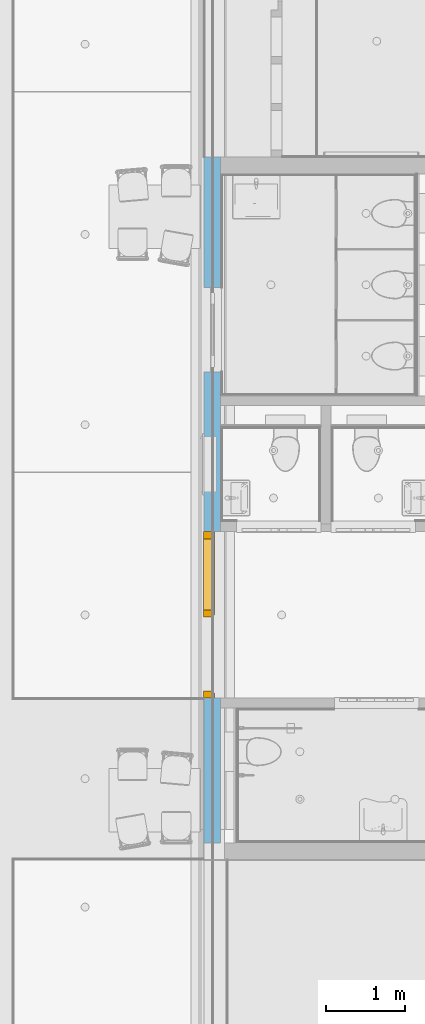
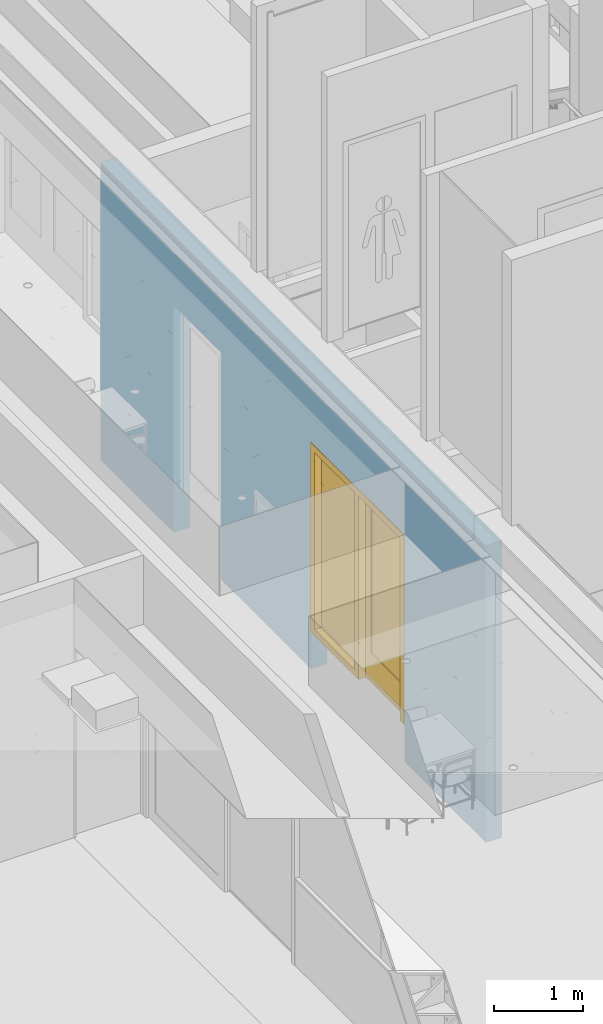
# One storey, part 73 of 347: 1 door, 2 openings, plus 1 element that does not belong to this part.
"""IFC2X3 building model written with IfcOpenShell, lengths in millimetres."""

from ifc_helpers import new_model, entity, si_unit, converted_unit, derived_unit, money_unit, direction, frame, origin_with_axes, place, context, subcontext, project, spatial, open_shell, faceted_brep, surface_model, material, type_object, element, fill, save


model = new_model("IFC2X3")

# Units and contexts
model_context = context("Model", 3, precision=0.01, world=origin_with_axes(), true_north=direction((0.0, 1.0)))
plan_context = context("Plan", 3, precision=0.01, world=origin_with_axes(), true_north=direction((0.0, 1.0)))
body_context = subcontext(model_context, "Body", "Model", "MODEL_VIEW")
ifc_project = project(units=[si_unit("LENGTHUNIT", "METRE", prefix="MILLI"), si_unit("AREAUNIT", "SQUARE_METRE"), si_unit("VOLUMEUNIT", "CUBIC_METRE"), converted_unit("PLANEANGLEUNIT", "DEGREE", entity("IfcPlaneAngleMeasure", 0.0174532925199), si_unit("PLANEANGLEUNIT", "RADIAN"), dimensions=[0, 0, 0, 0, 0, 0, 0]), money_unit("EUR"), converted_unit("TIMEUNIT", "Year", entity("IfcTimeMeasure", 31556926.0), si_unit("TIMEUNIT", "SECOND"), dimensions=[0, 0, 1, 0, 0, 0, 0]), si_unit("MASSUNIT", "GRAM", prefix="KILO"), si_unit("THERMODYNAMICTEMPERATUREUNIT", "DEGREE_CELSIUS"), si_unit("LUMINOUSINTENSITYUNIT", "LUMEN"), si_unit("ENERGYUNIT", "JOULE", prefix="MEGA"), derived_unit("THERMALCONDUCTANCEUNIT", [(si_unit("POWERUNIT", "WATT"), 1), (si_unit("LENGTHUNIT", "METRE"), -1), (si_unit("THERMODYNAMICTEMPERATUREUNIT", "KELVIN"), -1)]), derived_unit("SPECIFICHEATCAPACITYUNIT", [(si_unit("ENERGYUNIT", "JOULE"), 1), (si_unit("MASSUNIT", "GRAM", prefix="KILO"), -1), (si_unit("THERMODYNAMICTEMPERATUREUNIT", "KELVIN"), -1)]), derived_unit("MASSDENSITYUNIT", [(si_unit("MASSUNIT", "GRAM", prefix="KILO"), 1), (si_unit("VOLUMEUNIT", "CUBIC_METRE"), -1)])], contexts=[model_context, plan_context])

# Site, building, storey
site_placement = place(None, origin_with_axes())
site = spatial("IfcSite", under=ifc_project, at=site_placement, Name="Site", CompositionType="ELEMENT")
building_placement = place(site_placement, origin_with_axes())
building = spatial("IfcBuilding", under=site, at=building_placement, Name="Naam gebouw", CompositionType="ELEMENT")
storey_placement = place(building_placement, origin_with_axes())
storey = spatial("IfcBuildingStorey", under=building, at=storey_placement, Name="begane grond", CompositionType="ELEMENT", Elevation=0.0)

# Wall, openings, door
ifc_material = material(Name="Beton gewapend prefab wand")
wall_type = type_object("IfcWallType", Name="Betonwand 200 210", PredefinedType="NOTDEFINED")
wall_placement = place(storey_placement, frame((35705.0, 25940.0, -510.0), z_axis=(0.0, 0.0, 1.0), x_axis=(0.0, 1.0, 0.0)))
wall = element("IfcWall", 1, at=wall_placement, inside=storey, type_object=wall_type, material=ifc_material, Name="21_21 betonwand", context=body_context, shape_type="Brep", body=[
    faceted_brep([(2035.0, 0.0, 440.0), (2035.0, 0.0, 3110.0), (4134.99992765, 0.0, 3110.0), (4134.99992765, 0.0, 440.0), (4134.99992765, 0.0, 0.0), (6149.99992765, 0.0, 0.0), (6149.99992765, 0.0, 440.0), (6149.99992765, 0.0, 3110.0), (7213.99992765, 0.0, 3110.0), (7213.99992765, 0.0, 440.0), (7213.99992765, 0.0, 0.0), (8860.0, 0.0, 0.0), (8860.0, 0.0, 4070.0), (210.0, 0.0, 4070.0), (210.0, 0.0, 0.0), (2035.0, 0.0, 0.0), (2035.0, 210.0, 440.0), (2035.0, 210.0, 3110.0), (4134.99992765, 210.0, 3110.0), (4134.99992765, 210.0, 440.0), (4134.99992765, 210.0, 0.0), (6149.99992765, 210.0, 0.0), (6149.99992765, 210.0, 440.0), (6149.99992765, 130.0, 440.0), (6149.99992765, 210.0, 3110.0), (7213.99992765, 210.0, 3110.0), (7213.99992765, 210.0, 440.0), (7213.99992765, 130.0, 440.0), (7213.99992765, 210.0, 0.0), (8860.0, 210.0, 0.0), (8860.0, 210.0, 4070.0), (210.0, 210.0, 4070.0), (210.0, 210.0, 0.0), (2035.0, 210.0, 0.0)], [[[0, 1, 2, 3, 4, 5, 6, 7, 8, 9, 10, 11, 12, 13, 14, 15]], [[1, 0, 16, 17]], [[2, 1, 17, 18]], [[3, 2, 18, 19]], [[3, 19, 20, 4]], [[4, 20, 21, 5]], [[5, 21, 22, 23, 6]], [[23, 22, 24, 7, 6]], [[7, 24, 25, 8]], [[8, 25, 26, 27, 9]], [[26, 28, 10, 9, 27]], [[29, 11, 10, 28]], [[29, 30, 12, 11]], [[13, 12, 30, 31]], [[32, 14, 13, 31]], [[14, 32, 33, 15]], [[16, 0, 15, 33]], [[17, 16, 33, 32, 31, 30, 29, 28, 26, 25, 24, 22, 21, 20, 19, 18]]]),
])
opening_1_placement = place(wall_placement, frame((6681.99992765, 0.0, 510.0), z_axis=(0.0, 0.0, 1.0), x_axis=(1.0, 0.0, 0.0)))
element("IfcOpeningElement", 2, at=opening_1_placement, cuts=wall, Name="32_01.04", context=body_context, shape_type="Brep", body=[
    faceted_brep([(-532.0, 130.0, 2600.0), (-532.0, 130.0, -450.0), (-532.0, -210.0, -450.0), (-532.0, -210.0, 2600.0), (532.0, 130.0, 2600.0), (532.0, 130.0, -450.0), (532.0, -210.0, -450.0), (532.0, -210.0, 2600.0)], [[[0, 1, 2, 3]], [[0, 4, 5, 1]], [[1, 5, 6, 2]], [[3, 2, 6, 7]], [[4, 0, 3, 7]], [[5, 4, 7, 6]]]),
    faceted_brep([(-532.0, 130.0, -450.0), (-532.0, 130.0, 2600.0), (-532.0, 420.0, 2600.0), (-532.0, 420.0, -450.0), (532.0, 130.0, -450.0), (532.0, 130.0, 2600.0), (532.0, 420.0, 2600.0), (532.0, 420.0, -450.0)], [[[0, 1, 2, 3]], [[0, 4, 5, 1]], [[1, 5, 6, 2]], [[3, 2, 6, 7]], [[4, 0, 3, 7]], [[5, 4, 7, 6]]]),
])
opening_2_placement = place(wall_placement, frame((3084.99996383, 0.0, 510.0), z_axis=(0.0, 0.0, 1.0), x_axis=(1.0, 0.0, 0.0)))
opening_2 = element("IfcOpeningElement", 3, at=opening_2_placement, cuts=wall, Name="32_04.05", context=body_context, shape_type="Brep", body=[
    faceted_brep([(-1049.99996383, -210.0, -450.0), (-1049.99996383, -210.0, 2600.0), (-1049.99996383, 427.0, 2600.0), (-1049.99996383, 427.0, -450.0), (1049.99996383, -210.0, -450.0), (1049.99996383, -210.0, 2600.0), (1049.99996383, 427.0, 2600.0), (1049.99996383, 427.0, -450.0)], [[[0, 1, 2, 3]], [[0, 4, 5, 1]], [[1, 5, 6, 2]], [[3, 2, 6, 7]], [[4, 0, 3, 7]], [[5, 4, 7, 6]]]),
])
door_style = type_object("IfcDoorStyle", Name="D1 zl1-b 25", ConstructionType="NOTDEFINED", OperationType="SINGLE_SWING_RIGHT", ParameterTakesPrecedence=False, Sizeable=False)
door_placement = place(opening_2_placement, frame((1049.99996383, 0.0, 0.0), z_axis=(0.0, 0.0, 1.0), x_axis=(-1.0, 0.0, 0.0)))
door = element("IfcDoor", 4, at=door_placement, inside=storey, type_object=door_style, Name="32_04.05", ObjectType="DOOR", OverallHeight=2600.0, OverallWidth=2100.0, context=body_context, shape_type="SurfaceModel", body=[
    faceted_brep([(0.0, -78.0, 0.0), (90.0, -78.0, 0.0), (90.0, -217.0, 0.0), (0.0, -217.0, 0.0), (0.0, -78.0, 2510.0), (90.0, -78.0, 2510.0), (90.0, -78.0, 90.0), (90.0, -217.0, 90.0), (90.0, -217.0, 2510.0), (0.0, -217.0, 2510.0)], [[[0, 1, 2, 3]], [[0, 4, 5, 6, 1]], [[1, 6, 7, 2]], [[3, 2, 7, 8, 9]], [[4, 0, 3, 9]], [[5, 4, 9, 8]], [[6, 5, 8, 7]]]),
    faceted_brep([(1075.99992765, -123.0, 0.0), (1075.99992765, -123.0, 2510.0), (1075.99992765, -217.0, 2510.0), (1075.99992765, -217.0, 0.0), (1050.99992765, -123.0, 2510.0), (1050.99992765, -123.0, 0.0), (1050.99992765, -78.0, 2510.0), (985.999927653, -78.0, 2510.0), (985.999927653, -217.0, 2510.0), (985.999927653, -217.0, 0.0), (985.999927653, -217.0, 90.0), (985.999927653, -78.0, 0.0), (1050.99992765, -78.0, 0.0), (985.999927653, -78.0, 90.0)], [[[0, 1, 2, 3]], [[4, 1, 0, 5]], [[4, 6, 7, 8, 2, 1]], [[9, 3, 2, 8, 10]], [[5, 0, 3, 9, 11, 12]], [[6, 4, 5, 12]], [[6, 12, 11, 13, 7]], [[13, 10, 8, 7]], [[11, 9, 10, 13]]]),
    faceted_brep([(90.0, -78.0, 90.0), (90.0, -78.0, 0.0), (90.0, -217.0, 0.0), (90.0, -217.0, 90.0), (985.999927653, -78.0, 90.0), (985.999927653, -78.0, 0.0), (985.999927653, -217.0, 0.0), (985.999927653, -217.0, 90.0)], [[[0, 1, 2, 3]], [[0, 4, 5, 1]], [[1, 5, 6, 2]], [[3, 2, 6, 7]], [[4, 0, 3, 7]], [[5, 4, 7, 6]]]),
    faceted_brep([(2034.99992765, -123.0, 2510.0), (2009.99992765, -123.0, 2510.0), (2009.99992765, -217.0, 2510.0), (2099.99992765, -217.0, 2510.0), (2099.99992765, -78.0, 2510.0), (2034.99992765, -78.0, 2510.0), (2034.99992765, -123.0, 0.0), (2009.99992765, -123.0, 0.0), (2009.99992765, -217.0, 0.0), (2099.99992765, -217.0, 0.0), (2099.99992765, -78.0, 0.0), (2034.99992765, -78.0, 0.0)], [[[0, 1, 2, 3, 4, 5]], [[1, 0, 6, 7]], [[1, 7, 8, 2]], [[3, 2, 8, 9]], [[4, 3, 9, 10]], [[11, 5, 4, 10]], [[0, 5, 11, 6]], [[6, 11, 10, 9, 8, 7]]]),
    faceted_brep([(1050.99992765, -78.0, 2535.0), (1050.99992765, -78.0, 2510.0), (985.999927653, -78.0, 2510.0), (90.0, -78.0, 2510.0), (0.0, -78.0, 2510.0), (0.0, -78.0, 2600.0), (2099.99992765, -78.0, 2600.0), (2099.99992765, -78.0, 2510.0), (2034.99992765, -78.0, 2510.0), (2034.99992765, -78.0, 2535.0), (1050.99992765, -123.0, 2535.0), (1050.99992765, -123.0, 2510.0), (2009.99992765, -123.0, 2510.0), (2009.99992765, -217.0, 2510.0), (1075.99992765, -217.0, 2510.0), (985.999927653, -217.0, 2510.0), (90.0, -217.0, 2510.0), (0.0, -217.0, 2510.0), (0.0, -217.0, 2600.0), (2099.99992765, -217.0, 2600.0), (2099.99992765, -217.0, 2510.0), (2034.99992765, -123.0, 2510.0), (2034.99992765, -123.0, 2535.0)], [[[0, 1, 2, 3, 4, 5, 6, 7, 8, 9]], [[1, 0, 10, 11]], [[11, 12, 13, 14, 15, 2, 1]], [[2, 15, 16, 3]], [[3, 16, 17, 4]], [[4, 17, 18, 5]], [[5, 18, 19, 6]], [[6, 19, 20, 7]], [[21, 8, 7, 20, 13, 12]], [[9, 8, 21, 22]], [[0, 9, 22, 10]], [[21, 12, 11, 10, 22]], [[13, 20, 19, 18, 17, 16, 15, 14]]]),
    faceted_brep([(2034.99992765, -83.0, 400.0), (2034.99992765, -123.0, 400.0), (1894.99992765, -123.0, 400.0), (1894.99992765, -83.0, 400.0), (2034.99992765, -83.0, 2395.0), (2034.99992765, -123.0, 2395.0), (1894.99992765, -123.0, 2395.0), (1894.99992765, -83.0, 2395.0)], [[[0, 1, 2, 3]], [[4, 5, 1, 0]], [[1, 5, 6, 2]], [[3, 2, 6, 7]], [[0, 3, 7, 4]], [[7, 6, 5, 4]]]),
    faceted_brep([(1050.99992765, -83.0, 400.0), (1050.99992765, -123.0, 400.0), (1050.99992765, -123.0, 2395.0), (1050.99992765, -83.0, 2395.0), (1190.99992765, -83.0, 400.0), (1190.99992765, -123.0, 400.0), (1190.99992765, -123.0, 2395.0), (1190.99992765, -83.0, 2395.0)], [[[0, 1, 2, 3]], [[4, 5, 1, 0]], [[1, 5, 6, 2]], [[3, 2, 6, 7]], [[0, 3, 7, 4]], [[7, 6, 5, 4]]]),
    faceted_brep([(2034.99992765, -83.0, 0.0), (2034.99992765, -123.0, 0.0), (1050.99992765, -123.0, 0.0), (1050.99992765, -83.0, 0.0), (2034.99992765, -83.0, 400.0), (2034.99992765, -123.0, 400.0), (1894.99992765, -123.0, 400.0), (1190.99992765, -123.0, 400.0), (1050.99992765, -123.0, 400.0), (1050.99992765, -83.0, 400.0), (1190.99992765, -83.0, 400.0), (1894.99992765, -83.0, 400.0)], [[[0, 1, 2, 3]], [[4, 5, 1, 0]], [[1, 5, 6, 7, 8, 2]], [[3, 2, 8, 9]], [[0, 3, 9, 10, 11, 4]], [[11, 6, 5, 4]], [[10, 7, 6, 11]], [[9, 8, 7, 10]]]),
    faceted_brep([(2034.99992765, -83.0, 2535.0), (2034.99992765, -123.0, 2535.0), (2034.99992765, -123.0, 2395.0), (2034.99992765, -83.0, 2395.0), (1050.99992765, -83.0, 2535.0), (1050.99992765, -123.0, 2535.0), (1050.99992765, -123.0, 2395.0), (1190.99992765, -123.0, 2395.0), (1894.99992765, -123.0, 2395.0), (1894.99992765, -83.0, 2395.0), (1190.99992765, -83.0, 2395.0), (1050.99992765, -83.0, 2395.0)], [[[0, 1, 2, 3]], [[4, 5, 1, 0]], [[1, 5, 6, 7, 8, 2]], [[3, 2, 8, 9]], [[0, 3, 9, 10, 11, 4]], [[11, 6, 5, 4]], [[10, 7, 6, 11]], [[9, 8, 7, 10]]]),
    surface_model("IfcShellBasedSurfaceModel", [(1894.99992765, -97.0, 400.0), (1190.99992765, -97.0, 400.0), (1190.99992765, -97.0, 2395.0), (1894.99992765, -97.0, 2395.0)], [open_shell([[[0, 1, 2, 3]]])]),
    surface_model("IfcShellBasedSurfaceModel", [(1894.99992765, -109.0, 400.0), (1894.99992765, -109.0, 2395.0), (1190.99992765, -109.0, 2395.0), (1190.99992765, -109.0, 400.0)], [open_shell([[[0, 1, 2, 3]]])]),
    surface_model("IfcShellBasedSurfaceModel", [(90.0, -124.0, 90.0), (985.999927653, -124.0, 90.0), (985.999927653, -124.0, 2510.0), (90.0, -124.0, 2510.0)], [open_shell([[[0, 1, 2, 3]]])]),
    surface_model("IfcShellBasedSurfaceModel", [(90.0, -112.0, 90.0), (90.0, -112.0, 2510.0), (985.999927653, -112.0, 2510.0), (985.999927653, -112.0, 90.0)], [open_shell([[[0, 1, 2, 3]]])]),
])
fill(opening_2, door)

save(model, "model.ifc")
